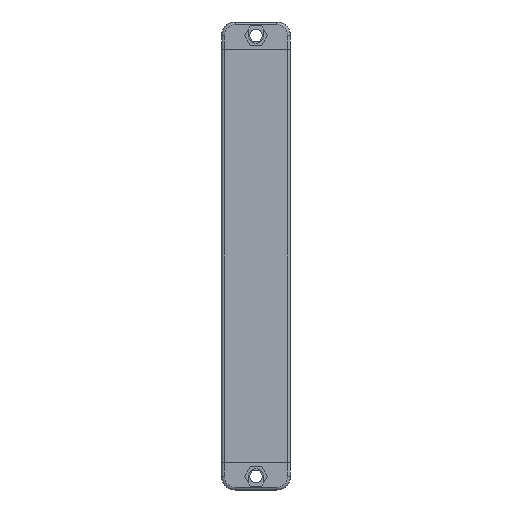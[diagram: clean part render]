
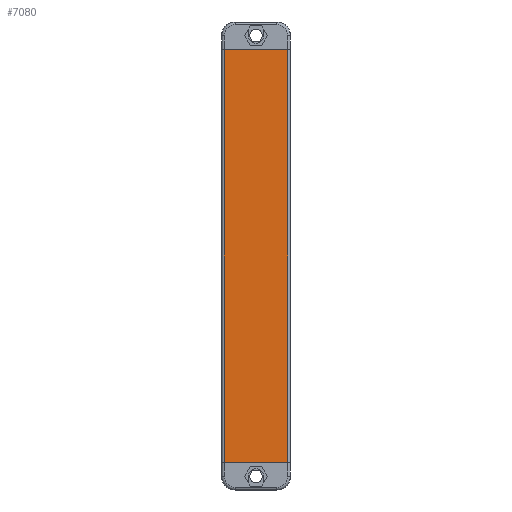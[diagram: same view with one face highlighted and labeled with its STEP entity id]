
A CAD part, front view. The second image highlights one B-rep face of the part: STEP entity #7080.
In plain terms, the highlighted planar face has unit normal (0, -1, 0).
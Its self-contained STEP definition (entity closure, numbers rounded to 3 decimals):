
#307 = LINE ( 'NONE', #3833, #1068 ) ;
#1068 = VECTOR ( 'NONE', #7373, 1000. ) ;
#1405 = LINE ( 'NONE', #4934, #9881 ) ;
#1614 = CARTESIAN_POINT ( 'NONE',  ( -0.005, -6., 150. ) ) ;
#1959 = ORIENTED_EDGE ( 'NONE', *, *, #2583, .T. ) ;
#2035 = EDGE_LOOP ( 'NONE', ( #4566, #3702, #7241, #1959 ) ) ;
#2044 = CARTESIAN_POINT ( 'NONE',  ( -11.5, -6., 0. ) ) ;
#2409 = LINE ( 'NONE', #5947, #9985 ) ;
#2583 = EDGE_CURVE ( 'NONE', #8710, #9017, #307, .T. ) ;
#3157 = CARTESIAN_POINT ( 'NONE',  ( 11.5, -6., 150. ) ) ;
#3195 = AXIS2_PLACEMENT_3D ( 'NONE', #1614, #5151, #8695 ) ;
#3408 = VECTOR ( 'NONE', #6696, 1000. ) ;
#3702 = ORIENTED_EDGE ( 'NONE', *, *, #4902, .F. ) ;
#3833 = CARTESIAN_POINT ( 'NONE',  ( -11.5, -6., 150. ) ) ;
#4309 = CARTESIAN_POINT ( 'NONE',  ( 11.5, -6., 150. ) ) ;
#4566 = ORIENTED_EDGE ( 'NONE', *, *, #8398, .T. ) ;
#4902 = EDGE_CURVE ( 'NONE', #5029, #6994, #11113, .T. ) ;
#4934 = CARTESIAN_POINT ( 'NONE',  ( -11.5, -6., 150. ) ) ;
#5029 = VERTEX_POINT ( 'NONE', #4309 ) ;
#5151 = DIRECTION ( 'NONE',  ( 0., 1., 0. ) ) ;
#5947 = CARTESIAN_POINT ( 'NONE',  ( -0.005, -6., 0. ) ) ;
#6024 = FACE_OUTER_BOUND ( 'NONE', #2035, .T. ) ;
#6696 = DIRECTION ( 'NONE',  ( 0., 0., -1. ) ) ;
#6994 = VERTEX_POINT ( 'NONE', #7598 ) ;
#7080 = ADVANCED_FACE ( 'NONE', ( #6024 ), #9581, .F. ) ;
#7241 = ORIENTED_EDGE ( 'NONE', *, *, #8883, .F. ) ;
#7373 = DIRECTION ( 'NONE',  ( 0., 0., -1. ) ) ;
#7598 = CARTESIAN_POINT ( 'NONE',  ( 11.5, -6., 0. ) ) ;
#8398 = EDGE_CURVE ( 'NONE', #9017, #6994, #2409, .T. ) ;
#8484 = DIRECTION ( 'NONE',  ( 1., 0., 0. ) ) ;
#8695 = DIRECTION ( 'NONE',  ( 0., 0., 1. ) ) ;
#8710 = VERTEX_POINT ( 'NONE', #10005 ) ;
#8883 = EDGE_CURVE ( 'NONE', #8710, #5029, #1405, .T. ) ;
#9017 = VERTEX_POINT ( 'NONE', #2044 ) ;
#9497 = DIRECTION ( 'NONE',  ( 1., 0., 0. ) ) ;
#9581 = PLANE ( 'NONE',  #3195 ) ;
#9881 = VECTOR ( 'NONE', #8484, 1000. ) ;
#9985 = VECTOR ( 'NONE', #9497, 1000. ) ;
#10005 = CARTESIAN_POINT ( 'NONE',  ( -11.5, -6., 150. ) ) ;
#11113 = LINE ( 'NONE', #3157, #3408 ) ;
